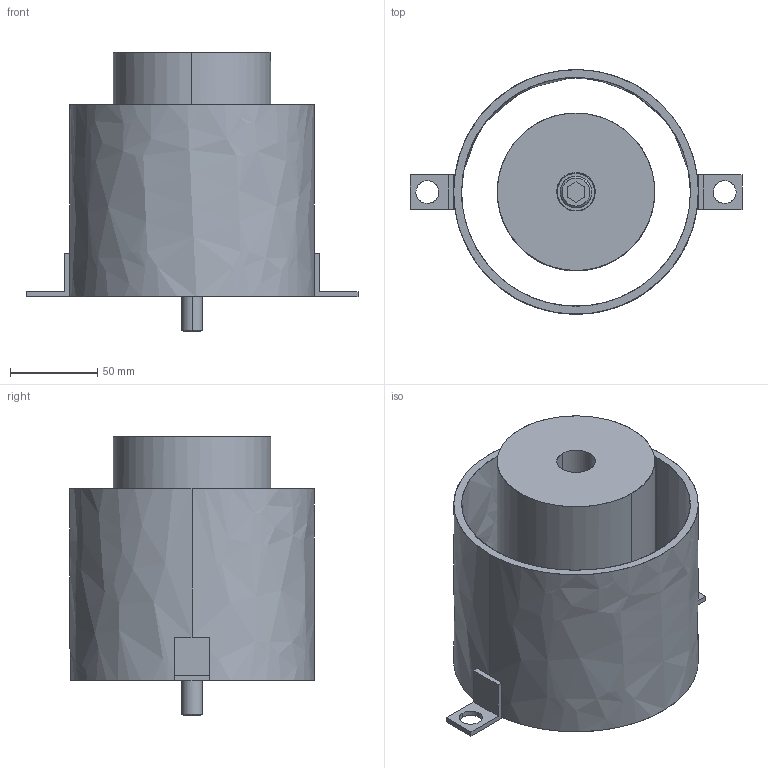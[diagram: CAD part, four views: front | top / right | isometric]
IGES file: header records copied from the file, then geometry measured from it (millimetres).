
Global section: file name: E:\UnigraphicsGraphicData\MISUMI_PRESS-PARTS\IGES\3d_phbt90-140-110-r_07071_r00.igs; native system: NX V5.0; preprocessor: UGS NX IGES V5.0; author: MISUMI; date: 20110105.162248; units: millimetre
Bounding box: 189.8 x 139.8 x 160 mm (x, y, z)
Surface area: 170455 mm2 (no closed solid volume)
Topology: 0 solids, 0 shells, 64 faces, 472 edges, 472 vertices
Faces by surface type: bspline 64
